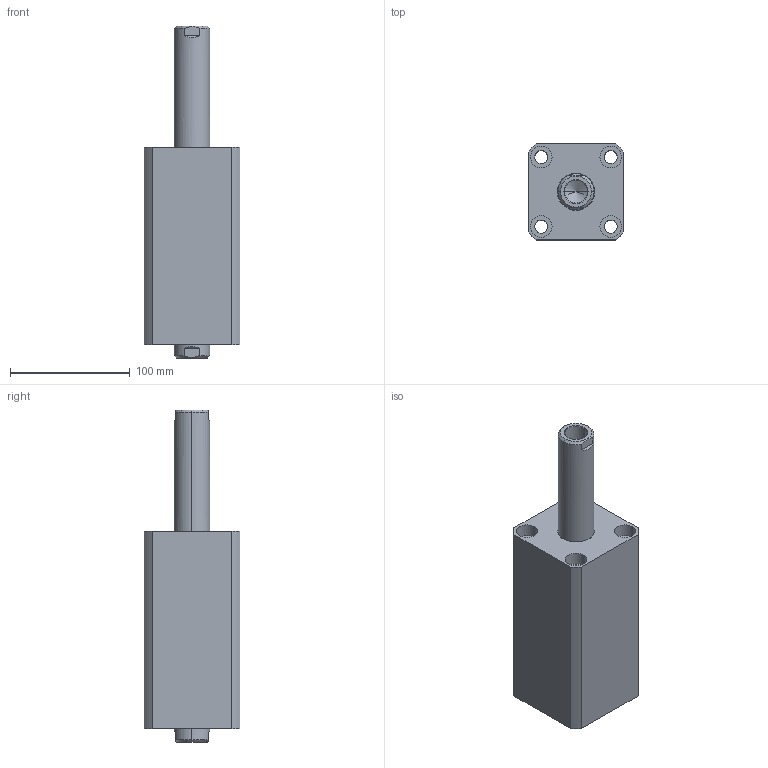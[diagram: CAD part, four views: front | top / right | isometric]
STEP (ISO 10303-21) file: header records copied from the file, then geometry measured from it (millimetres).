
FILE_DESCRIPTION (( 'STEP AP203' ), '1' );
FILE_NAME ('CHTB-SW50-90N.STEP', '2018-05-21T07:31:17', ( '' ), ( '' ), 'SwSTEP 2.0', 'SolidWorks 2015', '' );
FILE_SCHEMA (( 'CONFIG_CONTROL_DESIGN' ));
Length unit declared in the file: millimetre
Products named in the file (4): 活塞杆SW50-90N; 掛极SW50-90N; CHTB-SW50-90N; ヶ裔
Assembly tree (3 placements, depth 2):
  CHTB-SW50-90N
    掛极SW50-90N
    活塞杆SW50-90N
    ヶ裔
Bounding box: 80 x 80 x 277 mm (x, y, z)
Volume: 904350.2 mm3; surface area: 163087.2 mm2
Topology: 3 solids, 3 shells, 225 faces, 528 edges, 331 vertices
Faces by surface type: cylinder 118, plane 46, cone 33, torus 24, bspline 4
Entity records: 9698 total; most frequent: CARTESIAN_POINT 4235, DIRECTION 1104, ORIENTED_EDGE 1040, EDGE_CURVE 520, AXIS2_PLACEMENT_3D 462, VERTEX_POINT 331, EDGE_LOOP 271, CIRCLE 235
